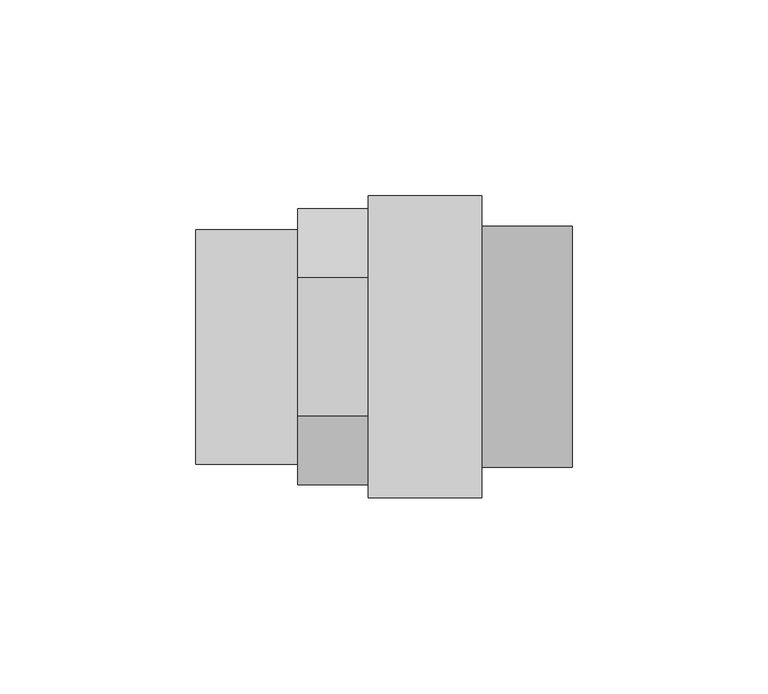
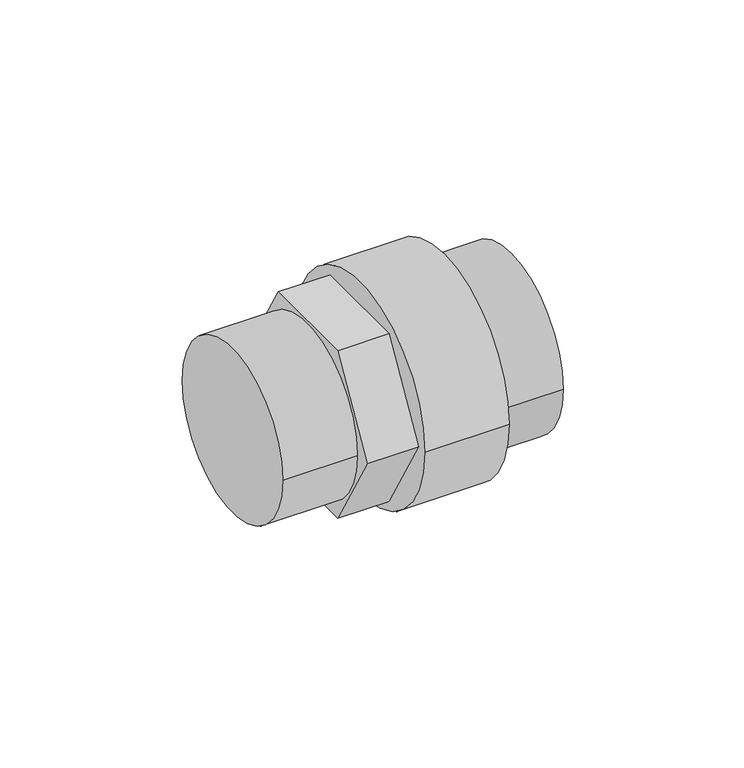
"""IFC4 building model written with IfcOpenShell, lengths in millimetres: pipe fitting geometry, 01011279 : Enlaces 3 piezas para piscinas F/M."""

from ifc_helpers import new_model, si_unit, point, frame, origin, origin_2d, place, context, project, spatial, polyline, circle_curve, trimmed, segment, composite_curve, outline, extrude, source, transform, mapped, element, save


def pipe_fitting_2be1b27a(model_context):
    return source(origin(), model_context, "Body", "SweptSolid", [
        extrude(outline(composite_curve([segment(trimmed(circle_curve(origin_2d(), 38.5), [point((38.5, 0.0))], [point((-38.5, 0.0))], False, "CARTESIAN"), True, "CONTINUOUS"), segment(trimmed(circle_curve(origin_2d(), 38.5), [point((-38.5, 0.0))], [point((38.5, 0.0))], False, "CARTESIAN"), True, "CONTINUOUS")], self_intersect=False)), frame((-18.0, 0.0, 0.0), z_axis=(1.0, 0.0, 0.0), x_axis=(0.0, 1.0, 0.0)), (0.0, 0.0, 1.0), 29.0),
        extrude(outline(polyline([(-17.6091832, 30.5), (17.6091832, 30.5), (35.2183664, 0.0), (17.6091832, -30.5), (-17.6091832, -30.5), (-35.2183664, 0.0), (-17.6091832, 30.5)])), frame((-36.0, 0.0, 0.0), z_axis=(1.0, 0.0, 0.0), x_axis=(0.0, 1.0, 0.0)), (0.0, 0.0, 1.0), 18.0),
        extrude(outline(composite_curve([segment(trimmed(circle_curve(origin_2d(), 29.925), [point((29.925, 0.0))], [point((-29.925, 0.0))], False, "CARTESIAN"), True, "CONTINUOUS"), segment(trimmed(circle_curve(origin_2d(), 29.925), [point((-29.925, 0.0))], [point((29.925, 0.0))], False, "CARTESIAN"), True, "CONTINUOUS")], self_intersect=False)), frame((-62.0, 0.0, 0.0), z_axis=(1.0, 0.0, 0.0), x_axis=(0.0, 1.0, 0.0)), (0.0, 0.0, 1.0), 26.0),
        extrude(outline(composite_curve([segment(trimmed(circle_curve(origin_2d(), 30.8), [point((-30.8, 0.0))], [point((30.8, 0.0))], False, "CARTESIAN"), True, "CONTINUOUS"), segment(trimmed(circle_curve(origin_2d(), 30.8), [point((30.8, 0.0))], [point((-30.8, 0.0))], False, "CARTESIAN"), True, "CONTINUOUS")], self_intersect=False)), frame((11.0, 0.0, 0.0), z_axis=(1.0, 0.0, 0.0), x_axis=(0.0, 1.0, 0.0)), (0.0, 0.0, 1.0), 23.0),
    ])


if __name__ == "__main__":
    model = new_model("IFC4")
    model_context = context("Model", 3, world=origin())
    ifc_project = project(units=[si_unit("LENGTHUNIT", "METRE", prefix="MILLI")], contexts=[model_context])
    site = spatial("IfcSite", under=ifc_project)
    building = spatial("IfcBuilding", under=site)
    placement = place(None, origin())
    pipe_fitting_shape = pipe_fitting_2be1b27a(model_context)
    element("IfcPipeFitting", 1, ObjectType="01011279 : Enlaces 3 piezas para piscinas F/M", at=placement, inside=building, context=model_context, shape_type="MappedRepresentation", body=[
        mapped(pipe_fitting_shape, transform((0.0, 0.0, 0.0), x_axis=(1.0, 0.0, 0.0), y_axis=(0.0, 1.0, 0.0), z_axis=(0.0, 0.0, 1.0))),
    ])
    save(model, "model.ifc")
